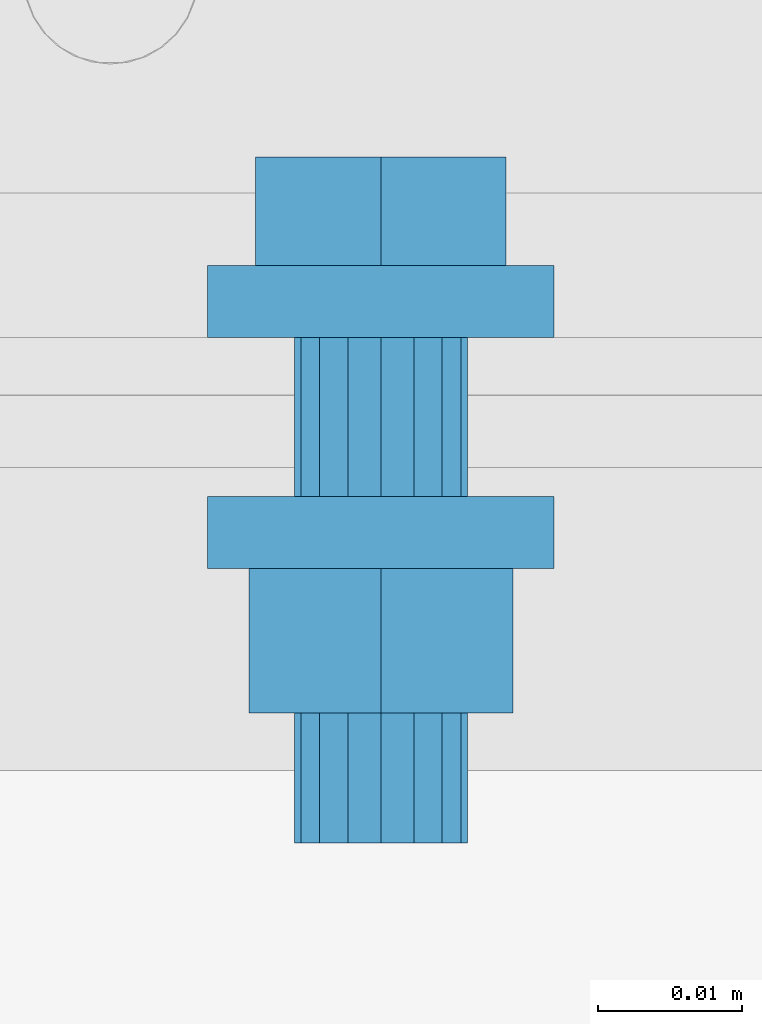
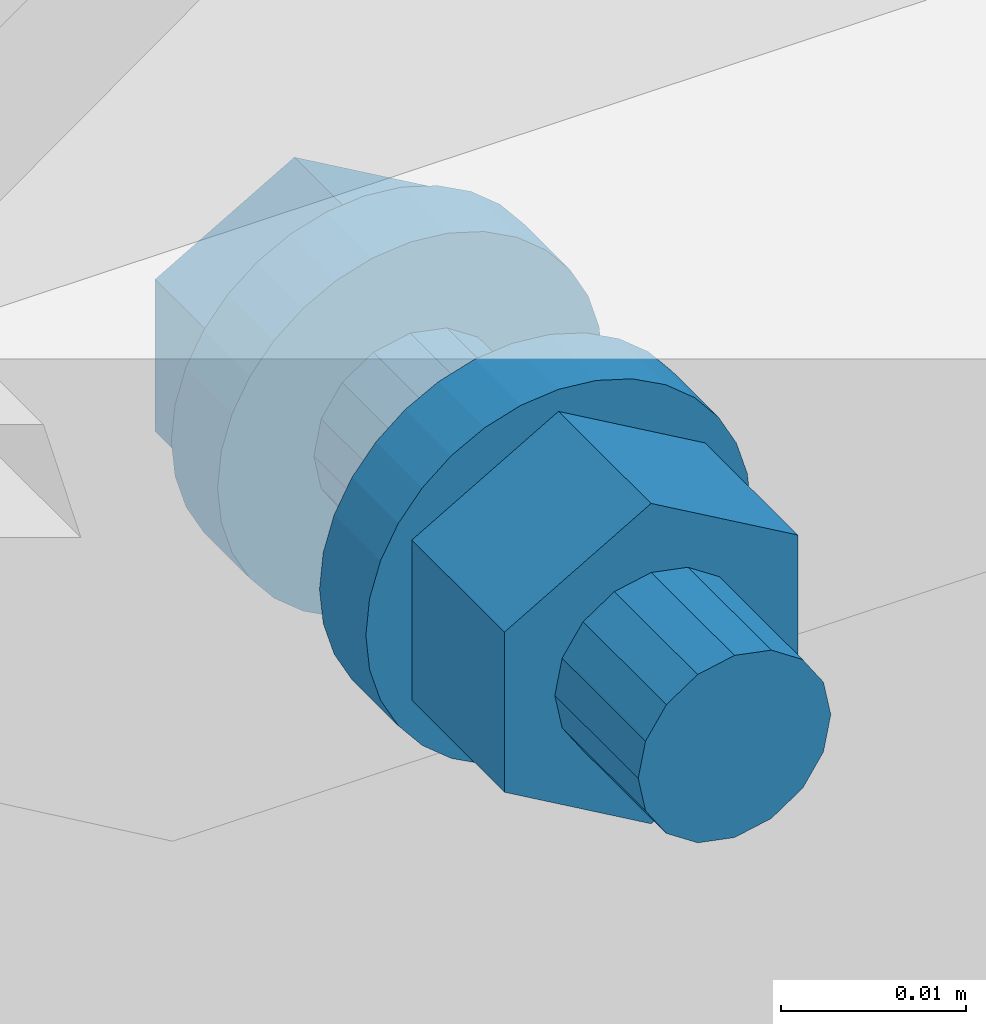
# One storey, part 83 of 116: 1 mechanical fastener.
"""IFC2X3 building model written with IfcOpenShell, lengths in millimetres."""

from ifc_helpers import new_model, entity, si_unit, converted_unit, origin_with_axes, place, context, project, spatial, faceted_brep, element, save


model = new_model("IFC2X3")

# Units and contexts
model_context = context("Model", 3, precision=1e-09, world=origin_with_axes())
ifc_project = project(units=[si_unit("LENGTHUNIT", "METRE", prefix="MILLI"), si_unit("AREAUNIT", "SQUARE_METRE"), si_unit("VOLUMEUNIT", "CUBIC_METRE"), converted_unit("PLANEANGLEUNIT", "DEGREE", entity("IfcPlaneAngleMeasure", 0.01745329), si_unit("PLANEANGLEUNIT", "RADIAN"), dimensions=[0, 0, 0, 0, 0, 0, 0])], contexts=[model_context])

# Site, building, storey
site_placement = place(None, origin_with_axes())
site = spatial("IfcSite", under=ifc_project, at=site_placement, Name="Site", CompositionType="ELEMENT")
building_placement = place(site_placement, origin_with_axes())
building = spatial("IfcBuilding", under=site, at=building_placement, Name="Struktur 1", CompositionType="ELEMENT")
storey_placement = place(building_placement, origin_with_axes())
storey = spatial("IfcBuildingStorey", under=building, at=storey_placement, Name="Default Storey", CompositionType="ELEMENT", Elevation=0.0)

# Mechanical fastener
mechanical_fastener_placement = place(None, origin_with_axes())
element("IfcMechanicalFastener", 1, at=mechanical_fastener_placement, inside=storey, ObjectType="-", NominalDiameter=12.0, NominalLength=40.0, context=model_context, shape_type="Brep", body=[
    faceted_brep([(59265.049134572, 10430.358883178, -688.0), (59265.049134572, 10432.858883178, -688.0), (59265.279711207, 10432.858883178, -690.341083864), (59265.279711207, 10430.358883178, -690.341083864), (59265.962580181, 10432.858883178, -692.592201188), (59265.962580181, 10430.358883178, -692.592201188), (59267.071499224, 10432.858883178, -694.666842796), (59267.071499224, 10430.358883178, -694.666842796), (59268.563853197, 10432.858883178, -696.485281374), (59268.563853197, 10430.358883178, -696.485281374), (59270.382291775, 10432.858883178, -697.977635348), (59270.382291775, 10430.358883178, -697.977635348), (59272.456933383, 10432.858883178, -699.08655439), (59272.456933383, 10430.358883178, -699.08655439), (59274.708050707, 10432.858883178, -699.769423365), (59274.708050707, 10430.358883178, -699.769423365), (59277.049134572, 10432.858883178, -700.0), (59277.049134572, 10430.358883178, -700.0), (59279.390218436, 10432.858883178, -699.769423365), (59279.390218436, 10430.358883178, -699.769423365), (59281.64133576, 10432.858883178, -699.08655439), (59281.64133576, 10430.358883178, -699.08655439), (59283.715977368, 10432.858883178, -697.977635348), (59283.715977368, 10430.358883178, -697.977635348), (59285.534415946, 10432.858883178, -696.485281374), (59285.534415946, 10430.358883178, -696.485281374), (59287.026769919, 10432.858883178, -694.666842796), (59287.026769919, 10430.358883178, -694.666842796), (59288.135688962, 10432.858883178, -692.592201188), (59288.135688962, 10430.358883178, -692.592201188), (59288.818557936, 10432.858883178, -690.341083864), (59288.818557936, 10430.358883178, -690.341083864), (59289.049134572, 10432.858883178, -688.0), (59289.049134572, 10430.358883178, -688.0), (59288.818557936, 10432.858883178, -685.658916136), (59288.818557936, 10430.358883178, -685.658916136), (59288.135688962, 10432.858883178, -683.407798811), (59288.135688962, 10430.358883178, -683.407798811), (59287.026769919, 10432.858883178, -681.333157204), (59287.026769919, 10430.358883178, -681.333157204), (59285.534415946, 10432.858883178, -679.514718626), (59285.534415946, 10430.358883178, -679.514718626), (59283.715977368, 10432.858883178, -678.022364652), (59283.715977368, 10430.358883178, -678.022364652), (59281.64133576, 10432.858883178, -676.91344561), (59281.64133576, 10430.358883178, -676.91344561), (59279.390218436, 10432.858883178, -676.230576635), (59279.390218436, 10430.358883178, -676.230576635), (59277.049134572, 10432.858883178, -676.0), (59277.049134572, 10430.358883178, -676.0), (59274.708050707, 10432.858883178, -676.230576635), (59274.708050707, 10430.358883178, -676.230576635), (59272.456933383, 10432.858883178, -676.91344561), (59272.456933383, 10430.358883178, -676.91344561), (59270.382291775, 10432.858883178, -678.022364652), (59270.382291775, 10430.358883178, -678.022364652), (59268.563853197, 10432.858883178, -679.514718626), (59268.563853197, 10430.358883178, -679.514718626), (59267.071499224, 10432.858883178, -681.333157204), (59267.071499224, 10430.358883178, -681.333157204), (59265.962580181, 10432.858883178, -683.407798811), (59265.962580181, 10430.358883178, -683.407798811), (59265.279711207, 10432.858883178, -685.658916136), (59265.279711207, 10430.358883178, -685.658916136)], [[[0, 1, 2, 3]], [[3, 2, 4, 5]], [[5, 4, 6, 7]], [[7, 6, 8, 9]], [[9, 8, 10, 11]], [[11, 10, 12, 13]], [[13, 12, 14, 15]], [[15, 14, 16, 17]], [[17, 16, 18, 19]], [[19, 18, 20, 21]], [[21, 20, 22, 23]], [[23, 22, 24, 25]], [[25, 24, 26, 27]], [[27, 26, 28, 29]], [[29, 28, 30, 31]], [[31, 30, 32, 33]], [[33, 32, 34, 35]], [[35, 34, 36, 37]], [[37, 36, 38, 39]], [[39, 38, 40, 41]], [[41, 40, 42, 43]], [[43, 42, 44, 45]], [[45, 44, 46, 47]], [[47, 46, 48, 49]], [[49, 48, 50, 51]], [[51, 50, 52, 53]], [[53, 52, 54, 55]], [[55, 54, 56, 57]], [[57, 56, 58, 59]], [[59, 58, 60, 61]], [[61, 60, 62, 63]], [[63, 62, 1, 0]], [[2, 1, 62, 60, 58, 56, 54, 52, 50, 48, 46, 44, 42, 40, 38, 36, 34, 32, 30, 28, 26, 24, 22, 20, 18, 16, 14, 12, 10, 8, 6, 4]], [[63, 0, 3, 5, 7, 9, 11, 13, 15, 17, 19, 21, 23, 25, 27, 29, 31, 33, 35, 37, 39, 41, 43, 45, 47, 49, 51, 53, 55, 57, 59, 61]]]),
    faceted_brep([(59265.049134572, 10432.858883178, -688.0), (59265.049134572, 10435.358883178, -688.0), (59265.279711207, 10435.358883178, -690.341083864), (59265.279711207, 10432.858883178, -690.341083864), (59265.962580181, 10435.358883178, -692.592201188), (59265.962580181, 10432.858883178, -692.592201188), (59267.071499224, 10435.358883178, -694.666842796), (59267.071499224, 10432.858883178, -694.666842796), (59268.563853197, 10435.358883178, -696.485281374), (59268.563853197, 10432.858883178, -696.485281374), (59270.382291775, 10435.358883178, -697.977635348), (59270.382291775, 10432.858883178, -697.977635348), (59272.456933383, 10435.358883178, -699.08655439), (59272.456933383, 10432.858883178, -699.08655439), (59274.708050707, 10435.358883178, -699.769423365), (59274.708050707, 10432.858883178, -699.769423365), (59277.049134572, 10435.358883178, -700.0), (59277.049134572, 10432.858883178, -700.0), (59279.390218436, 10435.358883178, -699.769423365), (59279.390218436, 10432.858883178, -699.769423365), (59281.64133576, 10435.358883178, -699.08655439), (59281.64133576, 10432.858883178, -699.08655439), (59283.715977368, 10435.358883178, -697.977635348), (59283.715977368, 10432.858883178, -697.977635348), (59285.534415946, 10435.358883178, -696.485281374), (59285.534415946, 10432.858883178, -696.485281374), (59287.026769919, 10435.358883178, -694.666842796), (59287.026769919, 10432.858883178, -694.666842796), (59288.135688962, 10435.358883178, -692.592201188), (59288.135688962, 10432.858883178, -692.592201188), (59288.818557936, 10435.358883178, -690.341083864), (59288.818557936, 10432.858883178, -690.341083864), (59289.049134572, 10435.358883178, -688.0), (59289.049134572, 10432.858883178, -688.0), (59288.818557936, 10435.358883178, -685.658916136), (59288.818557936, 10432.858883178, -685.658916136), (59288.135688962, 10435.358883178, -683.407798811), (59288.135688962, 10432.858883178, -683.407798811), (59287.026769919, 10435.358883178, -681.333157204), (59287.026769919, 10432.858883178, -681.333157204), (59285.534415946, 10435.358883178, -679.514718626), (59285.534415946, 10432.858883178, -679.514718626), (59283.715977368, 10435.358883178, -678.022364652), (59283.715977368, 10432.858883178, -678.022364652), (59281.64133576, 10435.358883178, -676.91344561), (59281.64133576, 10432.858883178, -676.91344561), (59279.390218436, 10435.358883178, -676.230576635), (59279.390218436, 10432.858883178, -676.230576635), (59277.049134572, 10435.358883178, -676.0), (59277.049134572, 10432.858883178, -676.0), (59274.708050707, 10435.358883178, -676.230576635), (59274.708050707, 10432.858883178, -676.230576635), (59272.456933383, 10435.358883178, -676.91344561), (59272.456933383, 10432.858883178, -676.91344561), (59270.382291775, 10435.358883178, -678.022364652), (59270.382291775, 10432.858883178, -678.022364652), (59268.563853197, 10435.358883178, -679.514718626), (59268.563853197, 10432.858883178, -679.514718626), (59267.071499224, 10435.358883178, -681.333157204), (59267.071499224, 10432.858883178, -681.333157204), (59265.962580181, 10435.358883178, -683.407798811), (59265.962580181, 10432.858883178, -683.407798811), (59265.279711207, 10435.358883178, -685.658916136), (59265.279711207, 10432.858883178, -685.658916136)], [[[0, 1, 2, 3]], [[3, 2, 4, 5]], [[5, 4, 6, 7]], [[7, 6, 8, 9]], [[9, 8, 10, 11]], [[11, 10, 12, 13]], [[13, 12, 14, 15]], [[15, 14, 16, 17]], [[17, 16, 18, 19]], [[19, 18, 20, 21]], [[21, 20, 22, 23]], [[23, 22, 24, 25]], [[25, 24, 26, 27]], [[27, 26, 28, 29]], [[29, 28, 30, 31]], [[31, 30, 32, 33]], [[33, 32, 34, 35]], [[35, 34, 36, 37]], [[37, 36, 38, 39]], [[39, 38, 40, 41]], [[41, 40, 42, 43]], [[43, 42, 44, 45]], [[45, 44, 46, 47]], [[47, 46, 48, 49]], [[49, 48, 50, 51]], [[51, 50, 52, 53]], [[53, 52, 54, 55]], [[55, 54, 56, 57]], [[57, 56, 58, 59]], [[59, 58, 60, 61]], [[61, 60, 62, 63]], [[63, 62, 1, 0]], [[2, 1, 62, 60, 58, 56, 54, 52, 50, 48, 46, 44, 42, 40, 38, 36, 34, 32, 30, 28, 26, 24, 22, 20, 18, 16, 14, 12, 10, 8, 6, 4]], [[63, 0, 3, 5, 7, 9, 11, 13, 15, 17, 19, 21, 23, 25, 27, 29, 31, 33, 35, 37, 39, 41, 43, 45, 47, 49, 51, 53, 55, 57, 59, 61]]]),
    faceted_brep([(59285.722378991, 10442.858883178, -693.0075), (59285.722378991, 10435.358883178, -693.0075), (59277.049134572, 10435.358883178, -698.015), (59277.049134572, 10442.858883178, -698.015), (59268.375890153, 10435.358883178, -693.0075), (59268.375890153, 10442.858883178, -693.0075), (59268.375890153, 10435.358883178, -682.9925), (59268.375890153, 10442.858883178, -682.9925), (59277.049134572, 10435.358883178, -677.985), (59277.049134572, 10442.858883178, -677.985), (59285.722378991, 10435.358883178, -682.9925), (59285.722378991, 10442.858883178, -682.9925)], [[[0, 1, 2, 3]], [[3, 2, 4, 5]], [[5, 4, 6, 7]], [[7, 6, 8, 9]], [[9, 8, 10, 11]], [[11, 10, 1, 0]], [[3, 5, 7, 9, 11, 0]], [[2, 1, 10, 8, 6, 4]]]),
    faceted_brep([(59271.049134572, 10419.358883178, -688.0), (59271.049134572, 10430.358883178, -688.0), (59271.505857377, 10430.358883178, -690.296100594), (59271.505857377, 10419.358883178, -690.296100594), (59272.806493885, 10430.358883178, -692.242640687), (59272.806493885, 10419.358883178, -692.242640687), (59274.753033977, 10430.358883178, -693.543277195), (59274.753033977, 10419.358883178, -693.543277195), (59277.049134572, 10430.358883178, -694.0), (59277.049134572, 10419.358883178, -694.0), (59279.345235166, 10430.358883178, -693.543277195), (59279.345235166, 10419.358883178, -693.543277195), (59281.291775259, 10430.358883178, -692.242640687), (59281.291775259, 10419.358883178, -692.242640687), (59282.592411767, 10430.358883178, -690.296100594), (59282.592411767, 10419.358883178, -690.296100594), (59283.049134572, 10430.358883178, -688.0), (59283.049134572, 10419.358883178, -688.0), (59282.592411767, 10430.358883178, -685.703899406), (59282.592411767, 10419.358883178, -685.703899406), (59281.291775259, 10430.358883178, -683.757359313), (59281.291775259, 10419.358883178, -683.757359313), (59279.345235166, 10430.358883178, -682.456722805), (59279.345235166, 10419.358883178, -682.456722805), (59277.049134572, 10430.358883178, -682.0), (59277.049134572, 10419.358883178, -682.0), (59274.753033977, 10430.358883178, -682.456722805), (59274.753033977, 10419.358883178, -682.456722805), (59272.806493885, 10430.358883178, -683.757359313), (59272.806493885, 10419.358883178, -683.757359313), (59271.505857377, 10430.358883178, -685.703899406), (59271.505857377, 10419.358883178, -685.703899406)], [[[0, 1, 2, 3]], [[3, 2, 4, 5]], [[5, 4, 6, 7]], [[7, 6, 8, 9]], [[9, 8, 10, 11]], [[11, 10, 12, 13]], [[13, 12, 14, 15]], [[15, 14, 16, 17]], [[17, 16, 18, 19]], [[19, 18, 20, 21]], [[21, 20, 22, 23]], [[23, 22, 24, 25]], [[25, 24, 26, 27]], [[27, 26, 28, 29]], [[29, 28, 30, 31]], [[31, 30, 1, 0]], [[2, 1, 30, 28, 26, 24, 22, 20, 18, 16, 14, 12, 10, 8, 6, 4]], [[31, 0, 3, 5, 7, 9, 11, 13, 15, 17, 19, 21, 23, 25, 27, 29]]]),
    faceted_brep([(59265.049134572, 10416.858883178, -688.0), (59265.049134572, 10419.358883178, -688.0), (59265.279711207, 10419.358883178, -690.341083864), (59265.279711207, 10416.858883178, -690.341083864), (59265.962580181, 10419.358883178, -692.592201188), (59265.962580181, 10416.858883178, -692.592201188), (59267.071499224, 10419.358883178, -694.666842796), (59267.071499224, 10416.858883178, -694.666842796), (59268.563853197, 10419.358883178, -696.485281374), (59268.563853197, 10416.858883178, -696.485281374), (59270.382291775, 10419.358883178, -697.977635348), (59270.382291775, 10416.858883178, -697.977635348), (59272.456933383, 10419.358883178, -699.08655439), (59272.456933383, 10416.858883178, -699.08655439), (59274.708050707, 10419.358883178, -699.769423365), (59274.708050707, 10416.858883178, -699.769423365), (59277.049134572, 10419.358883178, -700.0), (59277.049134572, 10416.858883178, -700.0), (59279.390218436, 10419.358883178, -699.769423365), (59279.390218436, 10416.858883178, -699.769423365), (59281.64133576, 10419.358883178, -699.08655439), (59281.64133576, 10416.858883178, -699.08655439), (59283.715977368, 10419.358883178, -697.977635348), (59283.715977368, 10416.858883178, -697.977635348), (59285.534415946, 10419.358883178, -696.485281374), (59285.534415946, 10416.858883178, -696.485281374), (59287.026769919, 10419.358883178, -694.666842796), (59287.026769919, 10416.858883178, -694.666842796), (59288.135688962, 10419.358883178, -692.592201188), (59288.135688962, 10416.858883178, -692.592201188), (59288.818557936, 10419.358883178, -690.341083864), (59288.818557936, 10416.858883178, -690.341083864), (59289.049134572, 10419.358883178, -688.0), (59289.049134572, 10416.858883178, -688.0), (59288.818557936, 10419.358883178, -685.658916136), (59288.818557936, 10416.858883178, -685.658916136), (59288.135688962, 10419.358883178, -683.407798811), (59288.135688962, 10416.858883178, -683.407798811), (59287.026769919, 10419.358883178, -681.333157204), (59287.026769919, 10416.858883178, -681.333157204), (59285.534415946, 10419.358883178, -679.514718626), (59285.534415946, 10416.858883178, -679.514718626), (59283.715977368, 10419.358883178, -678.022364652), (59283.715977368, 10416.858883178, -678.022364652), (59281.64133576, 10419.358883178, -676.91344561), (59281.64133576, 10416.858883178, -676.91344561), (59279.390218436, 10419.358883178, -676.230576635), (59279.390218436, 10416.858883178, -676.230576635), (59277.049134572, 10419.358883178, -676.0), (59277.049134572, 10416.858883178, -676.0), (59274.708050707, 10419.358883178, -676.230576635), (59274.708050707, 10416.858883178, -676.230576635), (59272.456933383, 10419.358883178, -676.91344561), (59272.456933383, 10416.858883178, -676.91344561), (59270.382291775, 10419.358883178, -678.022364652), (59270.382291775, 10416.858883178, -678.022364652), (59268.563853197, 10419.358883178, -679.514718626), (59268.563853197, 10416.858883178, -679.514718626), (59267.071499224, 10419.358883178, -681.333157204), (59267.071499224, 10416.858883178, -681.333157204), (59265.962580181, 10419.358883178, -683.407798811), (59265.962580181, 10416.858883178, -683.407798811), (59265.279711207, 10419.358883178, -685.658916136), (59265.279711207, 10416.858883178, -685.658916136)], [[[0, 1, 2, 3]], [[3, 2, 4, 5]], [[5, 4, 6, 7]], [[7, 6, 8, 9]], [[9, 8, 10, 11]], [[11, 10, 12, 13]], [[13, 12, 14, 15]], [[15, 14, 16, 17]], [[17, 16, 18, 19]], [[19, 18, 20, 21]], [[21, 20, 22, 23]], [[23, 22, 24, 25]], [[25, 24, 26, 27]], [[27, 26, 28, 29]], [[29, 28, 30, 31]], [[31, 30, 32, 33]], [[33, 32, 34, 35]], [[35, 34, 36, 37]], [[37, 36, 38, 39]], [[39, 38, 40, 41]], [[41, 40, 42, 43]], [[43, 42, 44, 45]], [[45, 44, 46, 47]], [[47, 46, 48, 49]], [[49, 48, 50, 51]], [[51, 50, 52, 53]], [[53, 52, 54, 55]], [[55, 54, 56, 57]], [[57, 56, 58, 59]], [[59, 58, 60, 61]], [[61, 60, 62, 63]], [[63, 62, 1, 0]], [[2, 1, 62, 60, 58, 56, 54, 52, 50, 48, 46, 44, 42, 40, 38, 36, 34, 32, 30, 28, 26, 24, 22, 20, 18, 16, 14, 12, 10, 8, 6, 4]], [[63, 0, 3, 5, 7, 9, 11, 13, 15, 17, 19, 21, 23, 25, 27, 29, 31, 33, 35, 37, 39, 41, 43, 45, 47, 49, 51, 53, 55, 57, 59, 61]]]),
    faceted_brep([(59265.049134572, 10414.358883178, -688.0), (59265.049134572, 10416.858883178, -688.0), (59265.279711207, 10416.858883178, -690.341083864), (59265.279711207, 10414.358883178, -690.341083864), (59265.962580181, 10416.858883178, -692.592201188), (59265.962580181, 10414.358883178, -692.592201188), (59267.071499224, 10416.858883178, -694.666842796), (59267.071499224, 10414.358883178, -694.666842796), (59268.563853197, 10416.858883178, -696.485281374), (59268.563853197, 10414.358883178, -696.485281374), (59270.382291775, 10416.858883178, -697.977635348), (59270.382291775, 10414.358883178, -697.977635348), (59272.456933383, 10416.858883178, -699.08655439), (59272.456933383, 10414.358883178, -699.08655439), (59274.708050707, 10416.858883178, -699.769423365), (59274.708050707, 10414.358883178, -699.769423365), (59277.049134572, 10416.858883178, -700.0), (59277.049134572, 10414.358883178, -700.0), (59279.390218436, 10416.858883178, -699.769423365), (59279.390218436, 10414.358883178, -699.769423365), (59281.64133576, 10416.858883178, -699.08655439), (59281.64133576, 10414.358883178, -699.08655439), (59283.715977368, 10416.858883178, -697.977635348), (59283.715977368, 10414.358883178, -697.977635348), (59285.534415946, 10416.858883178, -696.485281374), (59285.534415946, 10414.358883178, -696.485281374), (59287.026769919, 10416.858883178, -694.666842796), (59287.026769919, 10414.358883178, -694.666842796), (59288.135688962, 10416.858883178, -692.592201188), (59288.135688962, 10414.358883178, -692.592201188), (59288.818557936, 10416.858883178, -690.341083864), (59288.818557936, 10414.358883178, -690.341083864), (59289.049134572, 10416.858883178, -688.0), (59289.049134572, 10414.358883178, -688.0), (59288.818557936, 10416.858883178, -685.658916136), (59288.818557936, 10414.358883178, -685.658916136), (59288.135688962, 10416.858883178, -683.407798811), (59288.135688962, 10414.358883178, -683.407798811), (59287.026769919, 10416.858883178, -681.333157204), (59287.026769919, 10414.358883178, -681.333157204), (59285.534415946, 10416.858883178, -679.514718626), (59285.534415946, 10414.358883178, -679.514718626), (59283.715977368, 10416.858883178, -678.022364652), (59283.715977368, 10414.358883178, -678.022364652), (59281.64133576, 10416.858883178, -676.91344561), (59281.64133576, 10414.358883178, -676.91344561), (59279.390218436, 10416.858883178, -676.230576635), (59279.390218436, 10414.358883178, -676.230576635), (59277.049134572, 10416.858883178, -676.0), (59277.049134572, 10414.358883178, -676.0), (59274.708050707, 10416.858883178, -676.230576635), (59274.708050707, 10414.358883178, -676.230576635), (59272.456933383, 10416.858883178, -676.91344561), (59272.456933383, 10414.358883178, -676.91344561), (59270.382291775, 10416.858883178, -678.022364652), (59270.382291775, 10414.358883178, -678.022364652), (59268.563853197, 10416.858883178, -679.514718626), (59268.563853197, 10414.358883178, -679.514718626), (59267.071499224, 10416.858883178, -681.333157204), (59267.071499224, 10414.358883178, -681.333157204), (59265.962580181, 10416.858883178, -683.407798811), (59265.962580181, 10414.358883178, -683.407798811), (59265.279711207, 10416.858883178, -685.658916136), (59265.279711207, 10414.358883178, -685.658916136)], [[[0, 1, 2, 3]], [[3, 2, 4, 5]], [[5, 4, 6, 7]], [[7, 6, 8, 9]], [[9, 8, 10, 11]], [[11, 10, 12, 13]], [[13, 12, 14, 15]], [[15, 14, 16, 17]], [[17, 16, 18, 19]], [[19, 18, 20, 21]], [[21, 20, 22, 23]], [[23, 22, 24, 25]], [[25, 24, 26, 27]], [[27, 26, 28, 29]], [[29, 28, 30, 31]], [[31, 30, 32, 33]], [[33, 32, 34, 35]], [[35, 34, 36, 37]], [[37, 36, 38, 39]], [[39, 38, 40, 41]], [[41, 40, 42, 43]], [[43, 42, 44, 45]], [[45, 44, 46, 47]], [[47, 46, 48, 49]], [[49, 48, 50, 51]], [[51, 50, 52, 53]], [[53, 52, 54, 55]], [[55, 54, 56, 57]], [[57, 56, 58, 59]], [[59, 58, 60, 61]], [[61, 60, 62, 63]], [[63, 62, 1, 0]], [[2, 1, 62, 60, 58, 56, 54, 52, 50, 48, 46, 44, 42, 40, 38, 36, 34, 32, 30, 28, 26, 24, 22, 20, 18, 16, 14, 12, 10, 8, 6, 4]], [[63, 0, 3, 5, 7, 9, 11, 13, 15, 17, 19, 21, 23, 25, 27, 29, 31, 33, 35, 37, 39, 41, 43, 45, 47, 49, 51, 53, 55, 57, 59, 61]]]),
    faceted_brep([(59286.185702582, 10414.358883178, -693.275), (59286.185702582, 10404.358883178, -693.275), (59277.049134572, 10404.358883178, -698.55), (59277.049134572, 10414.358883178, -698.55), (59267.912566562, 10404.358883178, -693.275), (59267.912566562, 10414.358883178, -693.275), (59267.912566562, 10404.358883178, -682.725), (59267.912566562, 10414.358883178, -682.725), (59277.049134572, 10404.358883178, -677.45), (59277.049134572, 10414.358883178, -677.45), (59286.185702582, 10404.358883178, -682.725), (59286.185702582, 10414.358883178, -682.725)], [[[0, 1, 2, 3]], [[3, 2, 4, 5]], [[5, 4, 6, 7]], [[7, 6, 8, 9]], [[9, 8, 10, 11]], [[11, 10, 1, 0]], [[3, 5, 7, 9, 11, 0]], [[2, 1, 10, 8, 6, 4]]]),
    faceted_brep([(59271.049134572, 10395.358883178, -688.0), (59271.049134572, 10404.358883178, -688.0), (59271.505857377, 10404.358883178, -690.296100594), (59271.505857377, 10395.358883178, -690.296100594), (59272.806493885, 10404.358883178, -692.242640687), (59272.806493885, 10395.358883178, -692.242640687), (59274.753033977, 10404.358883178, -693.543277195), (59274.753033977, 10395.358883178, -693.543277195), (59277.049134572, 10404.358883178, -694.0), (59277.049134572, 10395.358883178, -694.0), (59279.345235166, 10404.358883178, -693.543277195), (59279.345235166, 10395.358883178, -693.543277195), (59281.291775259, 10404.358883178, -692.242640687), (59281.291775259, 10395.358883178, -692.242640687), (59282.592411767, 10404.358883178, -690.296100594), (59282.592411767, 10395.358883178, -690.296100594), (59283.049134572, 10404.358883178, -688.0), (59283.049134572, 10395.358883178, -688.0), (59282.592411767, 10404.358883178, -685.703899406), (59282.592411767, 10395.358883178, -685.703899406), (59281.291775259, 10404.358883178, -683.757359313), (59281.291775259, 10395.358883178, -683.757359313), (59279.345235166, 10404.358883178, -682.456722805), (59279.345235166, 10395.358883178, -682.456722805), (59277.049134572, 10404.358883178, -682.0), (59277.049134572, 10395.358883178, -682.0), (59274.753033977, 10404.358883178, -682.456722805), (59274.753033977, 10395.358883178, -682.456722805), (59272.806493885, 10404.358883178, -683.757359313), (59272.806493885, 10395.358883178, -683.757359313), (59271.505857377, 10404.358883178, -685.703899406), (59271.505857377, 10395.358883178, -685.703899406)], [[[0, 1, 2, 3]], [[3, 2, 4, 5]], [[5, 4, 6, 7]], [[7, 6, 8, 9]], [[9, 8, 10, 11]], [[11, 10, 12, 13]], [[13, 12, 14, 15]], [[15, 14, 16, 17]], [[17, 16, 18, 19]], [[19, 18, 20, 21]], [[21, 20, 22, 23]], [[23, 22, 24, 25]], [[25, 24, 26, 27]], [[27, 26, 28, 29]], [[29, 28, 30, 31]], [[31, 30, 1, 0]], [[2, 1, 30, 28, 26, 24, 22, 20, 18, 16, 14, 12, 10, 8, 6, 4]], [[31, 0, 3, 5, 7, 9, 11, 13, 15, 17, 19, 21, 23, 25, 27, 29]]]),
])

save(model, "model.ifc")
